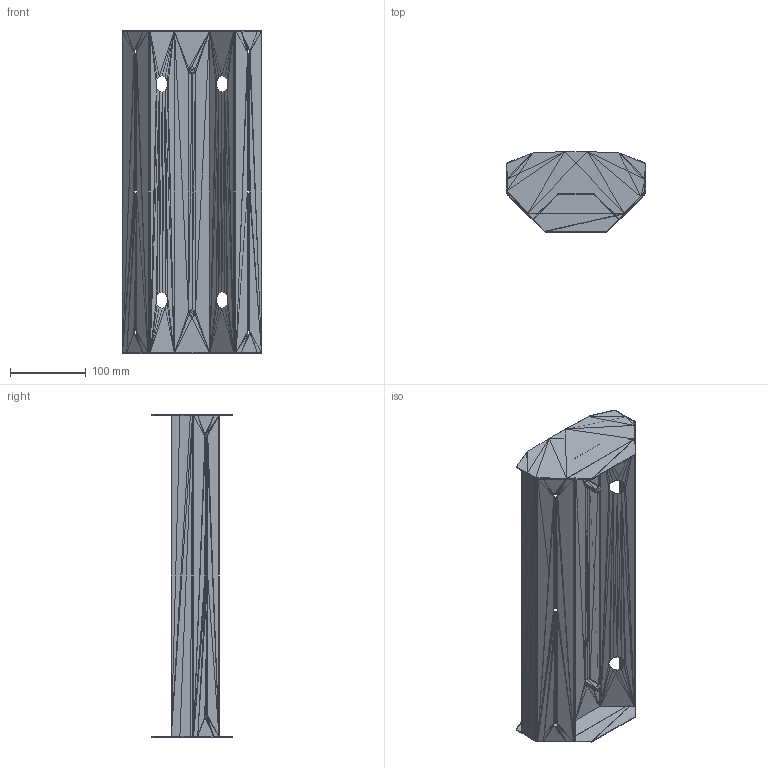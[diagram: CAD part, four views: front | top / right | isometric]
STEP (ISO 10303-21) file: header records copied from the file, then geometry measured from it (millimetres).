
FILE_DESCRIPTION((''),'2;1');
FILE_NAME('053416', '2026-07-09T09:00:42', (''), (''), 'ImageToStl.com STEP Converter','', '');
FILE_SCHEMA(('AUTOMOTIVE_DESIGN_CC2'));
Length unit declared in the file: metre
Products named in the file (1): product0
Bounding box: 184 x 105.8 x 425 mm (x, y, z)
Surface area: 315755.6 mm2 (no closed solid volume)
Topology: 0 solids, 1420 shells, 1420 faces, 4260 edges, 696 vertices
Faces by surface type: plane 1420
Entity records: 32660 total; most frequent: DIRECTION 7102, ORIENTED_EDGE 4260, EDGE_CURVE 4260, LINE 4260, VECTOR 4260, AXIS2_PLACEMENT_3D 1421, FACE_SURFACE 1420, PLANE 1420
